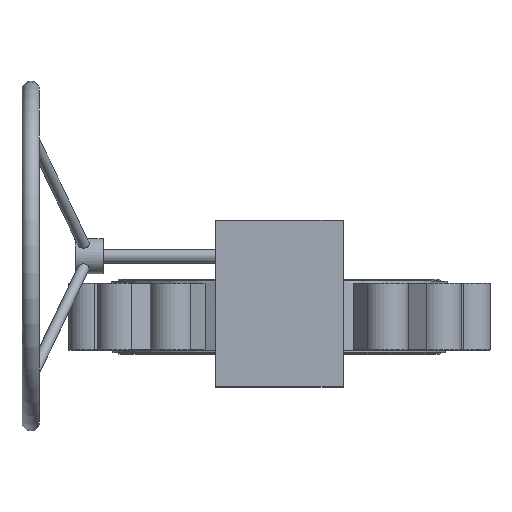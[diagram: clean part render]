
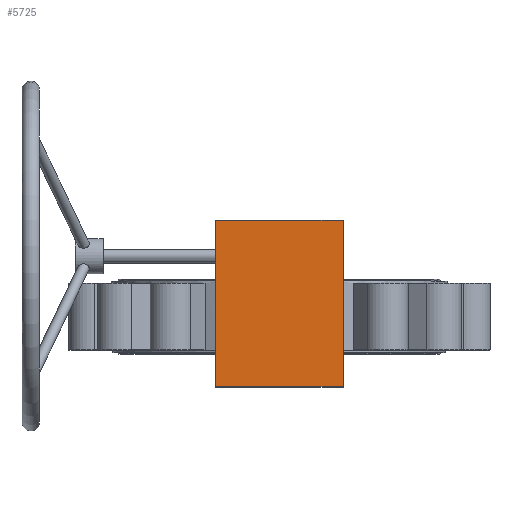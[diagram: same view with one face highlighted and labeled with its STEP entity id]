
A CAD part, top view. The second image highlights one B-rep face of the part: STEP entity #5725.
In plain terms, the highlighted planar face has unit normal (0, 0, 1) as drawn and (0, 1, 0) by its records, which use the part's own axes.
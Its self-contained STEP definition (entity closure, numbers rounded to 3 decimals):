
#55 = DIRECTION ( 'NONE',  ( -1., 0., 0. ) ) ;
#305 = CARTESIAN_POINT ( 'NONE',  ( -91.394, 103.14, -137.072 ) ) ;
#453 = DIRECTION ( 'NONE',  ( -1., 0., 0. ) ) ;
#546 = ORIENTED_EDGE ( 'NONE', *, *, #3926, .T. ) ;
#588 = LINE ( 'NONE', #3142, #1303 ) ;
#830 = ORIENTED_EDGE ( 'NONE', *, *, #2820, .T. ) ;
#891 = VECTOR ( 'NONE', #55, 1000. ) ;
#893 = DIRECTION ( 'NONE',  ( 0., 0., -1. ) ) ;
#1098 = EDGE_CURVE ( 'NONE', #4476, #5176, #4050, .T. ) ;
#1303 = VECTOR ( 'NONE', #893, 1000. ) ;
#2061 = CARTESIAN_POINT ( 'NONE',  ( 91.394, 103.14, 101.095 ) ) ;
#2258 = DIRECTION ( 'NONE',  ( 0., 0., 1. ) ) ;
#2326 = CARTESIAN_POINT ( 'NONE',  ( -91.394, 103.14, -137.072 ) ) ;
#2375 = LINE ( 'NONE', #3704, #4306 ) ;
#2696 = FACE_OUTER_BOUND ( 'NONE', #4690, .T. ) ;
#2820 = EDGE_CURVE ( 'NONE', #5176, #4418, #2375, .T. ) ;
#2833 = CARTESIAN_POINT ( 'NONE',  ( -91.394, 103.14, 101.095 ) ) ;
#3018 = AXIS2_PLACEMENT_3D ( 'NONE', #5018, #5391, #453 ) ;
#3023 = EDGE_CURVE ( 'NONE', #4247, #4476, #3580, .T. ) ;
#3142 = CARTESIAN_POINT ( 'NONE',  ( 91.394, 103.14, 101.095 ) ) ;
#3191 = PLANE ( 'NONE',  #3018 ) ;
#3361 = CARTESIAN_POINT ( 'NONE',  ( 91.394, 103.14, -137.072 ) ) ;
#3580 = LINE ( 'NONE', #2326, #891 ) ;
#3704 = CARTESIAN_POINT ( 'NONE',  ( -91.394, 103.14, 101.095 ) ) ;
#3875 = VECTOR ( 'NONE', #2258, 1000. ) ;
#3926 = EDGE_CURVE ( 'NONE', #4418, #4247, #588, .T. ) ;
#4050 = LINE ( 'NONE', #4939, #3875 ) ;
#4247 = VERTEX_POINT ( 'NONE', #3361 ) ;
#4306 = VECTOR ( 'NONE', #5029, 1000. ) ;
#4359 = ORIENTED_EDGE ( 'NONE', *, *, #1098, .T. ) ;
#4418 = VERTEX_POINT ( 'NONE', #2061 ) ;
#4476 = VERTEX_POINT ( 'NONE', #305 ) ;
#4690 = EDGE_LOOP ( 'NONE', ( #830, #546, #5849, #4359 ) ) ;
#4939 = CARTESIAN_POINT ( 'NONE',  ( -91.394, 103.14, 101.095 ) ) ;
#5018 = CARTESIAN_POINT ( 'NONE',  ( 0., 103.14, 0. ) ) ;
#5029 = DIRECTION ( 'NONE',  ( 1., 0., 0. ) ) ;
#5176 = VERTEX_POINT ( 'NONE', #2833 ) ;
#5391 = DIRECTION ( 'NONE',  ( 0., 1., 0. ) ) ;
#5725 = ADVANCED_FACE ( 'NONE', ( #2696 ), #3191, .T. ) ;
#5849 = ORIENTED_EDGE ( 'NONE', *, *, #3023, .T. ) ;
